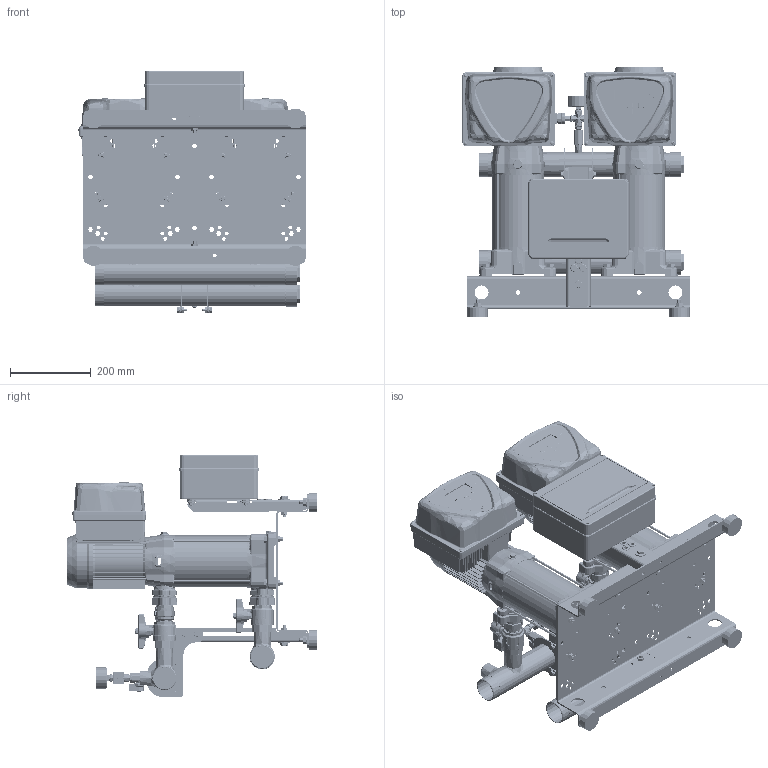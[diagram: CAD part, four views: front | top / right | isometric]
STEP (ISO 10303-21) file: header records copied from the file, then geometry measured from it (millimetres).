
FILE_DESCRIPTION((''),'2;1');
FILE_NAME('2GPE_CVM_A15_ESPT_REV4_ASM','2024-12-03T13:00:29',('Utente'),('"Ebara Pumps Europe S.p.A"'),'CREO PARAMETRIC BY PTC INC, 2022124','CREO PARAMETRIC BY PTC INC, 2022124','');
FILE_SCHEMA(('AUTOMOTIVE_DESIGN { 1 0 10303 214 1 1 1 1 }'));
Products named in the file (45): 62508_275562936; CALOTTA_F_A304_DN50_369800820; VAL_INT_MF_OTN_CIM301-14_DN32; VAL_INT_M-F_OTN_CIM301_DN32_ASM; EP_CVM_A-15_R; EP_CVM_A-15_R_ASM; ADATTATORE_E-SPD_MEC71; E-SPD_ADATTATORE_MEC71_ASM; BACK_E-SPD_PLUS_2200-4000; COVER_E-SPD_PLUS_2200-4000; COM_E-SPDT_MEC71_VERT_ASM; VAL-NR-MF-OTN-CIM32-DN32; VALV_NR_MF_CIM32_DN32_ASM; RONDEL-P_FE_ZN_UNI6592_M10; DADO_AUTOAGG_M10_ESAG; VITI_TE_ISO4017_M10_L40; 62513_275562944; VAL_INT_MF_OTN_CIM012_DN8; NIPPLO_OTG_8_380000861; CROCE_OTG_DN8_380000881; TRASD_16BAR_460500024; MAN_POS_D50_10BAR_361600003; BASE_2GP_I300-B300_DNRV; MONTANTE_H300_271472898; PIEDINO_CIL_369650010; DADI_NORM_ISO4032_FE_ZN_M10; RONDEL-P_ZN_UNI6593_M10X30X2-5; VITI_TE_ISO4017_M10_L45; TRAVERSO_MONT_L200_271472882; RONDEL-P_FE_ZN_UNI6593_M6X18X2; RONDEL-P_FE_ZN_UNI6592_M6; VITI_TE_ISO4017_M6_L20; DADI_NORM_ISO4032_FE_ZN_M6; DNRV_2P_I300-B300_H300-Q250X198_ASM; QUADRO_PROT_2P_T_ELENTEK; PG_PVC_D10-5_380000891; TAPPO-SALVAFIL_D31; 271473006; 271472998; 72578_271473004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
Assembly tree (134 placements, depth 3):
  2GPE_CVM_A15_ESPT_REV4_ASM
    62508_275562936
    CALOTTA_F_A304_DN50_369800820  x2
    VAL_INT_M-F_OTN_CIM301_DN32_ASM  x4
      VAL_INT_MF_OTN_CIM301-14_DN32
    EP_CVM_A-15_R_ASM  x2
      EP_CVM_A-15_R
    E-SPD_ADATTATORE_MEC71_ASM  x2
      ADATTATORE_E-SPD_MEC71
    COM_E-SPDT_MEC71_VERT_ASM  x2
      BACK_E-SPD_PLUS_2200-4000
      COVER_E-SPD_PLUS_2200-4000
    VALV_NR_MF_CIM32_DN32_ASM  x2
      VAL-NR-MF-OTN-CIM32-DN32
    RONDEL-P_FE_ZN_UNI6592_M10  x8
    DADO_AUTOAGG_M10_ESAG  x9
    VITI_TE_ISO4017_M10_L40  x8
    62513_275562944
    VAL_INT_MF_OTN_CIM012_DN8
    NIPPLO_OTG_8_380000861
    CROCE_OTG_DN8_380000881
    TRASD_16BAR_460500024  x2
    MAN_POS_D50_10BAR_361600003
    DNRV_2P_I300-B300_H300-Q250X198_ASM
      BASE_2GP_I300-B300_DNRV
      MONTANTE_H300_271472898
      PIEDINO_CIL_369650010  x4
      RONDEL-P_FE_ZN_UNI6592_M10  x4
      DADI_NORM_ISO4032_FE_ZN_M10  x4
      RONDEL-P_ZN_UNI6593_M10X30X2-5
      VITI_TE_ISO4017_M10_L45
      TRAVERSO_MONT_L200_271472882  x2
      RONDEL-P_FE_ZN_UNI6593_M6X18X2  x8
      RONDEL-P_FE_ZN_UNI6592_M6  x4
      VITI_TE_ISO4017_M6_L20  x4
      DADI_NORM_ISO4032_FE_ZN_M6  x4
      DADO_AUTOAGG_M10_ESAG
    QUADRO_PROT_2P_T_ELENTEK
    PG_PVC_D10-5_380000891  x3
    TAPPO-SALVAFIL_D31  x2
    271473006
    271472998  x2
    72578_271473004  x2
    RONDEL-P_ZN_UNI6593_M10X30X2-5
    VITI_TE_ISO4017_M10_L45
    RONDEL-P_FE_ZN_UNI6592_M8  x12
    VITI_TE_ISO4017_M8_L18  x8
    DADI_NORM_ISO4032_FE_ZN_M8  x4
    DADO_AUTOAGG_M8_ESAG  x4
Bounding box: 562.5 x 617.6 x 601.25 mm (x, y, z)
Volume: 4317263.9 mm3; surface area: 4726998.5 mm2
Topology: 296 solids, 1277 shells, 32658 faces, 85173 edges, 52542 vertices
Faces by surface type: plane 15767, cylinder 8005, bspline 2637, sphere 2073, cone 1521, extrusion 1426, torus 1229
Entity records: 735289 total; most frequent: CARTESIAN_POINT 288288, ORIENTED_EDGE 74528, DIRECTION 71820, EDGE_CURVE 38610, VERTEX_POINT 24222, AXIS2_PLACEMENT_3D 23963, VECTOR 23762, LINE 23132
